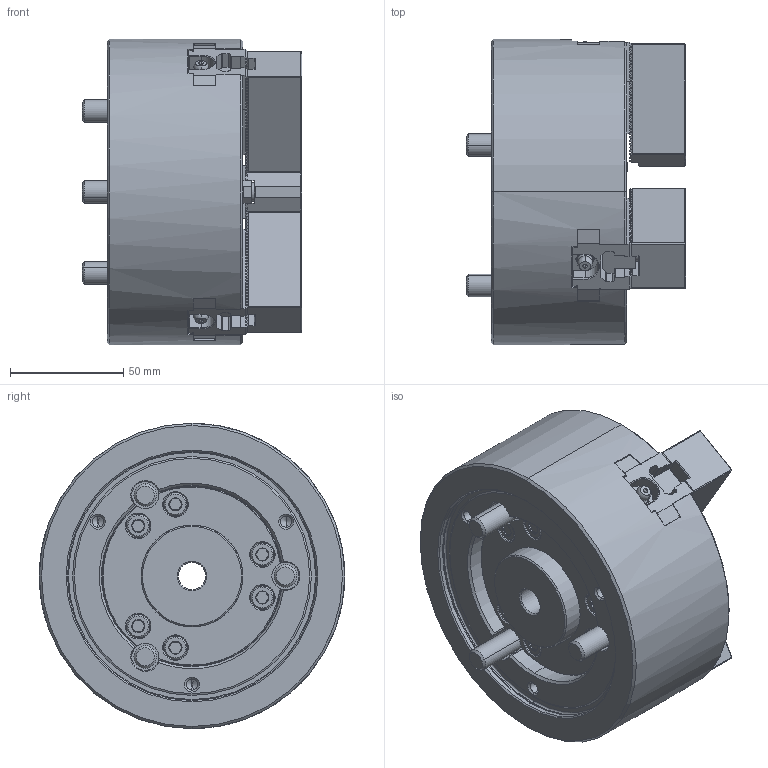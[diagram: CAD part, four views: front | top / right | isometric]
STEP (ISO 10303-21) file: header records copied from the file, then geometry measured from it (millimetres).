
FILE_DESCRIPTION (( 'STEP AP214' ), '1' );
FILE_NAME ('B-205_HUL.STEP', '2025-12-03T06:51:00', ( '' ), ( '' ), 'SwSTEP 2.0', 'SolidWorks 2022', '' );
FILE_SCHEMA (( 'AUTOMOTIVE_DESIGN' ));
Length unit declared in the file: millimetre
Products named in the file (9): DT1_B-205_SOFTJAW^DT1_B-205; DT1_B-205_M4x8^DT1_B-205; DT1_B-205_COVER^DT1_B-205; DT1_B-205_M10x60^DT1_B-205; DT1_B-205_M8x20^DT1_B-205; DT1_B-205_DRAWNUT^DT1_B-205; B-205_HUL; DT1_B-205_BASE^DT1_B-205; DT1_B-205_TNUT^DT1_B-205
Assembly tree (21 placements, depth 2):
  B-205_HUL
    DT1_B-205_SOFTJAW^DT1_B-205  x3
    DT1_B-205_TNUT^DT1_B-205  x3
    DT1_B-205_DRAWNUT^DT1_B-205
    DT1_B-205_COVER^DT1_B-205
    DT1_B-205_BASE^DT1_B-205
    DT1_B-205_M4x8^DT1_B-205  x3
    DT1_B-205_M8x20^DT1_B-205  x6
    DT1_B-205_M10x60^DT1_B-205  x3
Bounding box: 97 x 135 x 135 mm (x, y, z)
Volume: 821379.4 mm3; surface area: 144793.7 mm2
Topology: 21 solids, 33 shells, 3251 faces, 9014 edges, 5886 vertices
Faces by surface type: plane 2411, cylinder 303, cone 298, bspline 162, torus 65, sphere 12
Entity records: 86985 total; most frequent: CARTESIAN_POINT 24543, ORIENTED_EDGE 13714, DIRECTION 11484, EDGE_CURVE 6857, LINE 5220, VECTOR 5220, VERTEX_POINT 4506, AXIS2_PLACEMENT_3D 3132
